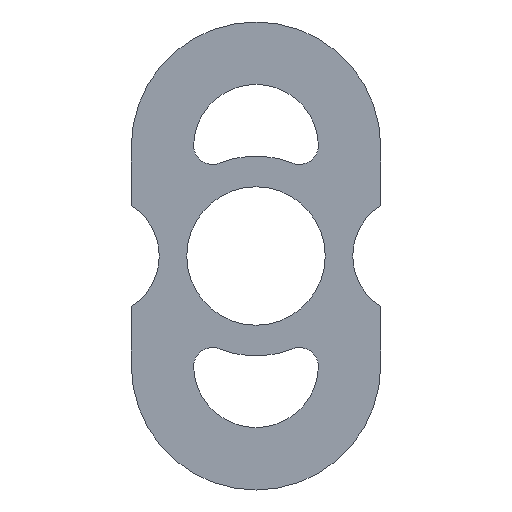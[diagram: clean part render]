
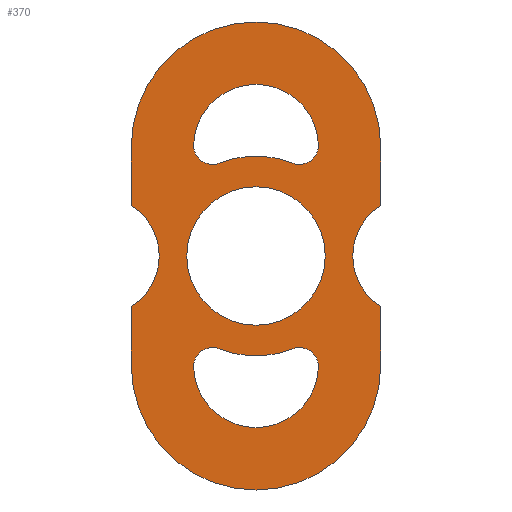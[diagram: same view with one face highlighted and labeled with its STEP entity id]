
A CAD part, front view. The second image highlights one B-rep face of the part: STEP entity #370.
In plain terms, the highlighted planar face has unit normal (0, -1, 0).
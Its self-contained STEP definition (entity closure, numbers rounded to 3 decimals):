
#28=PLANE('',#418);
#33=FACE_BOUND('',#78,.T.);
#34=FACE_BOUND('',#79,.T.);
#35=FACE_BOUND('',#80,.T.);
#54=FACE_OUTER_BOUND('',#77,.T.);
#77=EDGE_LOOP('',(#322,#323,#324,#325,#326,#327,#328,#329));
#78=EDGE_LOOP('',(#330,#331,#332,#333));
#79=EDGE_LOOP('',(#334,#335,#336,#337));
#80=EDGE_LOOP('',(#338));
#91=LINE('',#612,#115);
#95=LINE('',#624,#119);
#99=LINE('',#636,#123);
#103=LINE('',#647,#127);
#115=VECTOR('',#498,10.);
#119=VECTOR('',#510,10.);
#123=VECTOR('',#522,10.);
#127=VECTOR('',#534,10.);
#129=CIRCLE('',#375,3.);
#132=CIRCLE('',#379,16.01);
#133=CIRCLE('',#381,3.);
#135=CIRCLE('',#384,10.);
#137=CIRCLE('',#387,3.);
#140=CIRCLE('',#391,10.);
#141=CIRCLE('',#393,3.);
#143=CIRCLE('',#396,16.01);
#146=CIRCLE('',#400,11.09);
#147=CIRCLE('',#402,9.5);
#149=CIRCLE('',#406,20.);
#151=CIRCLE('',#410,9.5);
#153=CIRCLE('',#414,20.);
#155=VERTEX_POINT('',#549);
#156=VERTEX_POINT('',#550);
#160=VERTEX_POINT('',#560);
#161=VERTEX_POINT('',#564);
#163=VERTEX_POINT('',#573);
#164=VERTEX_POINT('',#574);
#168=VERTEX_POINT('',#584);
#169=VERTEX_POINT('',#588);
#172=VERTEX_POINT('',#599);
#173=VERTEX_POINT('',#602);
#174=VERTEX_POINT('',#603);
#177=VERTEX_POINT('',#611);
#179=VERTEX_POINT('',#617);
#181=VERTEX_POINT('',#623);
#183=VERTEX_POINT('',#629);
#185=VERTEX_POINT('',#635);
#187=VERTEX_POINT('',#641);
#189=EDGE_CURVE('',#155,#156,#129,.F.);
#195=EDGE_CURVE('',#160,#156,#132,.T.);
#196=EDGE_CURVE('',#160,#161,#133,.F.);
#199=EDGE_CURVE('',#155,#161,#135,.T.);
#201=EDGE_CURVE('',#163,#164,#137,.F.);
#207=EDGE_CURVE('',#168,#164,#140,.T.);
#208=EDGE_CURVE('',#168,#169,#141,.F.);
#211=EDGE_CURVE('',#163,#169,#143,.T.);
#214=EDGE_CURVE('',#172,#172,#146,.F.);
#215=EDGE_CURVE('',#173,#174,#147,.T.);
#219=EDGE_CURVE('',#174,#177,#91,.T.);
#222=EDGE_CURVE('',#179,#177,#149,.T.);
#225=EDGE_CURVE('',#179,#181,#95,.T.);
#228=EDGE_CURVE('',#181,#183,#151,.T.);
#231=EDGE_CURVE('',#183,#185,#99,.T.);
#234=EDGE_CURVE('',#187,#185,#153,.T.);
#237=EDGE_CURVE('',#187,#173,#103,.T.);
#322=ORIENTED_EDGE('',*,*,#237,.T.);
#323=ORIENTED_EDGE('',*,*,#215,.T.);
#324=ORIENTED_EDGE('',*,*,#219,.T.);
#325=ORIENTED_EDGE('',*,*,#222,.F.);
#326=ORIENTED_EDGE('',*,*,#225,.T.);
#327=ORIENTED_EDGE('',*,*,#228,.T.);
#328=ORIENTED_EDGE('',*,*,#231,.T.);
#329=ORIENTED_EDGE('',*,*,#234,.F.);
#330=ORIENTED_EDGE('',*,*,#207,.F.);
#331=ORIENTED_EDGE('',*,*,#208,.T.);
#332=ORIENTED_EDGE('',*,*,#211,.F.);
#333=ORIENTED_EDGE('',*,*,#201,.T.);
#334=ORIENTED_EDGE('',*,*,#195,.F.);
#335=ORIENTED_EDGE('',*,*,#196,.T.);
#336=ORIENTED_EDGE('',*,*,#199,.F.);
#337=ORIENTED_EDGE('',*,*,#189,.T.);
#338=ORIENTED_EDGE('',*,*,#214,.F.);
#370=ADVANCED_FACE('',(#54,#33,#34,#35),#28,.F.);
#375=AXIS2_PLACEMENT_3D('',#551,#428,#429);
#379=AXIS2_PLACEMENT_3D('',#562,#439,#440);
#381=AXIS2_PLACEMENT_3D('',#565,#443,#444);
#384=AXIS2_PLACEMENT_3D('',#570,#450,#451);
#387=AXIS2_PLACEMENT_3D('',#575,#456,#457);
#391=AXIS2_PLACEMENT_3D('',#586,#467,#468);
#393=AXIS2_PLACEMENT_3D('',#589,#471,#472);
#396=AXIS2_PLACEMENT_3D('',#594,#478,#479);
#400=AXIS2_PLACEMENT_3D('',#600,#486,#487);
#402=AXIS2_PLACEMENT_3D('',#604,#490,#491);
#406=AXIS2_PLACEMENT_3D('',#618,#503,#504);
#410=AXIS2_PLACEMENT_3D('',#630,#515,#516);
#414=AXIS2_PLACEMENT_3D('',#642,#527,#528);
#418=AXIS2_PLACEMENT_3D('',#650,#538,#539);
#428=DIRECTION('center_axis',(0.,-1.,0.));
#429=DIRECTION('ref_axis',(0.368,0.,0.93));
#439=DIRECTION('center_axis',(0.,1.,0.));
#440=DIRECTION('ref_axis',(1.,0.,0.));
#443=DIRECTION('center_axis',(0.,-1.,0.));
#444=DIRECTION('ref_axis',(1.,0.,-0.025));
#450=DIRECTION('center_axis',(0.,-1.,0.));
#451=DIRECTION('ref_axis',(-1.,0.,0.));
#456=DIRECTION('center_axis',(0.,-1.,0.));
#457=DIRECTION('ref_axis',(-1.,0.,0.025));
#467=DIRECTION('center_axis',(0.,-1.,0.));
#468=DIRECTION('ref_axis',(1.,0.,0.));
#471=DIRECTION('center_axis',(0.,-1.,0.));
#472=DIRECTION('ref_axis',(-0.368,0.,-0.93));
#478=DIRECTION('center_axis',(0.,1.,0.));
#479=DIRECTION('ref_axis',(1.,0.,0.));
#486=DIRECTION('center_axis',(0.,1.,0.));
#487=DIRECTION('ref_axis',(1.,0.,0.));
#490=DIRECTION('center_axis',(0.,1.,0.));
#491=DIRECTION('ref_axis',(1.,0.,0.));
#498=DIRECTION('',(0.,0.,1.));
#503=DIRECTION('center_axis',(0.,1.,0.));
#504=DIRECTION('ref_axis',(-1.,0.,0.));
#510=DIRECTION('',(0.,0.,-1.));
#515=DIRECTION('center_axis',(0.,1.,0.));
#516=DIRECTION('ref_axis',(1.,0.,0.));
#522=DIRECTION('',(0.,0.,-1.));
#527=DIRECTION('center_axis',(0.,1.,0.));
#528=DIRECTION('ref_axis',(1.,0.,0.));
#534=DIRECTION('',(0.,0.,1.));
#538=DIRECTION('center_axis',(0.,1.,0.));
#539=DIRECTION('ref_axis',(1.,0.,0.));
#549=CARTESIAN_POINT('',(9.997,0.,17.75));
#550=CARTESIAN_POINT('',(5.893,0.,14.886));
#551=CARTESIAN_POINT('Origin',(6.998,0.,17.675));
#560=CARTESIAN_POINT('',(-5.893,0.,14.886));
#562=CARTESIAN_POINT('Origin',(0.,0.,0.));
#564=CARTESIAN_POINT('',(-9.997,0.,17.75));
#565=CARTESIAN_POINT('Origin',(-6.998,0.,17.675));
#570=CARTESIAN_POINT('Origin',(0.,0.,17.5));
#573=CARTESIAN_POINT('',(5.893,0.,-14.886));
#574=CARTESIAN_POINT('',(9.997,0.,-17.75));
#575=CARTESIAN_POINT('Origin',(6.998,0.,-17.675));
#584=CARTESIAN_POINT('',(-9.997,0.,-17.75));
#586=CARTESIAN_POINT('Origin',(0.,0.,-17.5));
#588=CARTESIAN_POINT('',(-5.893,0.,-14.886));
#589=CARTESIAN_POINT('Origin',(-6.998,0.,-17.675));
#594=CARTESIAN_POINT('Origin',(0.,0.,0.));
#599=CARTESIAN_POINT('',(-11.09,0.,0.));
#600=CARTESIAN_POINT('Origin',(0.,0.,0.));
#602=CARTESIAN_POINT('',(20.,0.,-8.078));
#603=CARTESIAN_POINT('',(20.,0.,8.078));
#604=CARTESIAN_POINT('Origin',(25.,0.,0.));
#611=CARTESIAN_POINT('',(20.,0.,17.5));
#612=CARTESIAN_POINT('',(20.,0.,-17.5));
#617=CARTESIAN_POINT('',(-20.,0.,17.5));
#618=CARTESIAN_POINT('Origin',(0.,0.,17.5));
#623=CARTESIAN_POINT('',(-20.,0.,8.078));
#624=CARTESIAN_POINT('',(-20.,0.,17.5));
#629=CARTESIAN_POINT('',(-20.,0.,-8.078));
#630=CARTESIAN_POINT('Origin',(-25.,0.,0.));
#635=CARTESIAN_POINT('',(-20.,0.,-17.5));
#636=CARTESIAN_POINT('',(-20.,0.,17.5));
#641=CARTESIAN_POINT('',(20.,0.,-17.5));
#642=CARTESIAN_POINT('Origin',(0.,0.,-17.5));
#647=CARTESIAN_POINT('',(20.,0.,-17.5));
#650=CARTESIAN_POINT('Origin',(0.,0.,0.));
